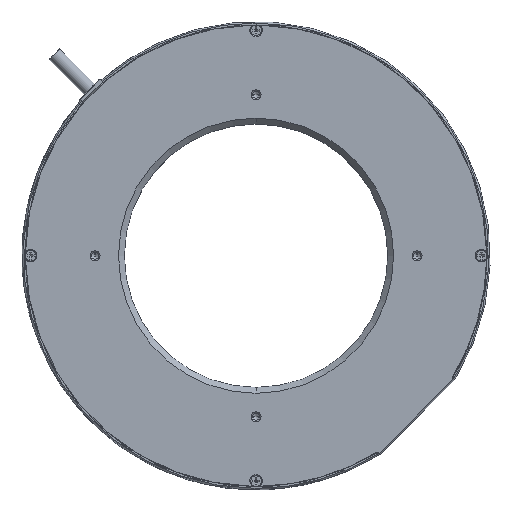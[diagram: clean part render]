
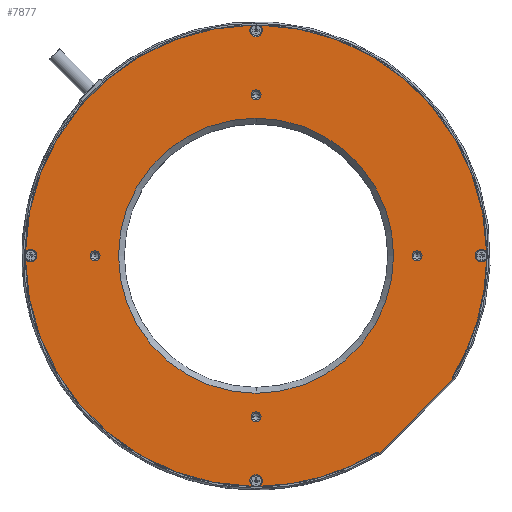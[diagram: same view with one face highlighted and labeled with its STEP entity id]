
A CAD part, top view. The second image highlights one B-rep face of the part: STEP entity #7877.
In plain terms, the highlighted planar face has unit normal (0, 0, 1).
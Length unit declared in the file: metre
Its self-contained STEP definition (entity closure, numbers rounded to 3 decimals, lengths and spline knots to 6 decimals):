
#1335=CARTESIAN_POINT('',(0.,0.,0.002));
#1336=DIRECTION('',(0.,0.,-1.));
#1337=DIRECTION('',(0.,1.,0.));
#1338=AXIS2_PLACEMENT_3D('',#1335,#1336,#1337);
#1340=CARTESIAN_POINT('',(0.,0.,0.002));
#1341=DIRECTION('',(0.,0.,-1.));
#1342=DIRECTION('',(0.,-1.,0.));
#1343=AXIS2_PLACEMENT_3D('',#1340,#1341,#1342);
#1345=CARTESIAN_POINT('',(-0.055,0.,0.002));
#1346=DIRECTION('',(0.,0.,-1.));
#1347=DIRECTION('',(0.,-1.,0.));
#1348=AXIS2_PLACEMENT_3D('',#1345,#1346,#1347);
#1350=CARTESIAN_POINT('',(-0.055,0.,0.002));
#1351=DIRECTION('',(0.,0.,-1.));
#1352=DIRECTION('',(0.,1.,0.));
#1353=AXIS2_PLACEMENT_3D('',#1350,#1351,#1352);
#1355=CARTESIAN_POINT('',(0.,-0.055,0.002));
#1356=DIRECTION('',(0.,0.,-1.));
#1357=DIRECTION('',(1.,0.,0.));
#1358=AXIS2_PLACEMENT_3D('',#1355,#1356,#1357);
#1360=CARTESIAN_POINT('',(0.,-0.055,0.002));
#1361=DIRECTION('',(0.,0.,-1.));
#1362=DIRECTION('',(-1.,0.,0.));
#1363=AXIS2_PLACEMENT_3D('',#1360,#1361,#1362);
#1365=CARTESIAN_POINT('',(0.055,0.,0.002));
#1366=DIRECTION('',(0.,0.,-1.));
#1367=DIRECTION('',(0.,1.,0.));
#1368=AXIS2_PLACEMENT_3D('',#1365,#1366,#1367);
#1370=CARTESIAN_POINT('',(0.055,0.,0.002));
#1371=DIRECTION('',(0.,0.,-1.));
#1372=DIRECTION('',(0.,-1.,0.));
#1373=AXIS2_PLACEMENT_3D('',#1370,#1371,#1372);
#1375=CARTESIAN_POINT('',(0.,0.055,0.002));
#1376=DIRECTION('',(0.,0.,-1.));
#1377=DIRECTION('',(-1.,0.,0.));
#1378=AXIS2_PLACEMENT_3D('',#1375,#1376,#1377);
#1380=CARTESIAN_POINT('',(0.,0.055,0.002));
#1381=DIRECTION('',(0.,0.,-1.));
#1382=DIRECTION('',(1.,0.,0.));
#1383=AXIS2_PLACEMENT_3D('',#1380,#1381,#1382);
#1385=CARTESIAN_POINT('',(0.,0.,0.002));
#1386=DIRECTION('',(0.,0.,1.));
#1387=DIRECTION('',(0.853,-0.523,0.));
#1388=AXIS2_PLACEMENT_3D('',#1385,#1386,#1387);
#1390=CARTESIAN_POINT('',(0.067608,-0.041445,0.002));
#1391=DIRECTION('',(0.,0.,-1.));
#1392=DIRECTION('',(-0.707,-0.707,0.));
#1393=AXIS2_PLACEMENT_3D('',#1390,#1391,#1392);
#1395=DIRECTION('',(-0.707,0.707,0.));
#1396=VECTOR('',#1395,0.000337);
#1397=CARTESIAN_POINT('',(0.067492,-0.042037,0.002));
#1398=LINE('',#1397,#1396);
#1399=DIRECTION('',(0.707,0.707,0.));
#1400=VECTOR('',#1399,0.036);
#1401=CARTESIAN_POINT('',(0.042037,-0.067492,0.002));
#1402=LINE('',#1401,#1400);
#1403=DIRECTION('',(0.707,-0.707,0.));
#1404=VECTOR('',#1403,0.000337);
#1405=CARTESIAN_POINT('',(0.041798,-0.067254,0.002));
#1406=LINE('',#1405,#1404);
#1407=CARTESIAN_POINT('',(0.041445,-0.067608,0.002));
#1408=DIRECTION('',(0.,0.,-1.));
#1409=DIRECTION('',(-0.523,0.853,0.));
#1410=AXIS2_PLACEMENT_3D('',#1407,#1408,#1409);
#1412=CARTESIAN_POINT('',(0.,0.,0.002));
#1413=DIRECTION('',(0.,0.,1.));
#1414=DIRECTION('',(0.015,-1.,0.));
#1415=AXIS2_PLACEMENT_3D('',#1412,#1413,#1414);
#1417=CARTESIAN_POINT('',(0.,0.,0.002));
#1418=DIRECTION('',(0.,0.,1.));
#1419=DIRECTION('',(-1.,-0.015,0.));
#1420=AXIS2_PLACEMENT_3D('',#1417,#1418,#1419);
#1422=CARTESIAN_POINT('',(0.,0.,0.002));
#1423=DIRECTION('',(0.,0.,1.));
#1424=DIRECTION('',(-0.015,1.,0.));
#1425=AXIS2_PLACEMENT_3D('',#1422,#1423,#1424);
#1427=CARTESIAN_POINT('',(0.,0.,0.002));
#1428=DIRECTION('',(0.,0.,1.));
#1429=DIRECTION('',(1.,0.015,0.));
#1430=AXIS2_PLACEMENT_3D('',#1427,#1428,#1429);
#1626=CARTESIAN_POINT('',(0.077,0.,0.002));
#1627=DIRECTION('',(0.,0.,-1.));
#1628=DIRECTION('',(0.833,-0.553,0.));
#1629=AXIS2_PLACEMENT_3D('',#1626,#1627,#1628);
#3353=CARTESIAN_POINT('',(0.,0.077,0.002));
#3354=DIRECTION('',(0.,0.,-1.));
#3355=DIRECTION('',(0.553,0.833,0.));
#3356=AXIS2_PLACEMENT_3D('',#3353,#3354,#3355);
#3680=CARTESIAN_POINT('',(-0.077,0.,0.002));
#3681=DIRECTION('',(0.,0.,-1.));
#3682=DIRECTION('',(-0.833,0.553,0.));
#3683=AXIS2_PLACEMENT_3D('',#3680,#3681,#3682);
#4014=CARTESIAN_POINT('',(0.,-0.077,0.002));
#4015=DIRECTION('',(0.,0.,-1.));
#4016=DIRECTION('',(-0.553,-0.833,0.));
#4017=AXIS2_PLACEMENT_3D('',#4014,#4015,#4016);
#4669=CARTESIAN_POINT('',(0.067182,-0.041184,0.002));
#4670=CARTESIAN_POINT('',(0.078791,-0.001189,0.002));
#4671=VERTEX_POINT('',#4669);
#4672=VERTEX_POINT('',#4670);
#4673=CARTESIAN_POINT('',(0.067254,-0.041798,0.002));
#4674=VERTEX_POINT('',#4673);
#4675=CARTESIAN_POINT('',(0.067492,-0.042037,0.002));
#4676=VERTEX_POINT('',#4675);
#4677=CARTESIAN_POINT('',(0.042037,-0.067492,0.002));
#4678=VERTEX_POINT('',#4677);
#4679=CARTESIAN_POINT('',(0.041798,-0.067254,0.002));
#4680=VERTEX_POINT('',#4679);
#4681=CARTESIAN_POINT('',(0.041184,-0.067182,0.002));
#4682=VERTEX_POINT('',#4681);
#4683=CARTESIAN_POINT('',(0.001189,-0.078791,0.002));
#4684=VERTEX_POINT('',#4683);
#4685=CARTESIAN_POINT('',(-0.078791,-0.001189,0.002));
#4686=CARTESIAN_POINT('',(-0.001189,-0.078791,0.002));
#4687=VERTEX_POINT('',#4685);
#4688=VERTEX_POINT('',#4686);
#4689=CARTESIAN_POINT('',(-0.001189,0.078791,0.002));
#4690=CARTESIAN_POINT('',(-0.078791,0.001189,0.002));
#4691=VERTEX_POINT('',#4689);
#4692=VERTEX_POINT('',#4690);
#4693=CARTESIAN_POINT('',(0.078791,0.001189,0.002));
#4694=CARTESIAN_POINT('',(0.001189,0.078791,0.002));
#4695=VERTEX_POINT('',#4693);
#4696=VERTEX_POINT('',#4694);
#4697=CARTESIAN_POINT('',(0.0017,0.055,0.002));
#4698=CARTESIAN_POINT('',(-0.0017,0.055,0.002));
#4699=VERTEX_POINT('',#4697);
#4700=VERTEX_POINT('',#4698);
#4701=CARTESIAN_POINT('',(0.055,-0.0017,0.002));
#4702=CARTESIAN_POINT('',(0.055,0.0017,0.002));
#4703=VERTEX_POINT('',#4701);
#4704=VERTEX_POINT('',#4702);
#4705=CARTESIAN_POINT('',(-0.0017,-0.055,0.002));
#4706=CARTESIAN_POINT('',(0.0017,-0.055,0.002));
#4707=VERTEX_POINT('',#4705);
#4708=VERTEX_POINT('',#4706);
#4709=CARTESIAN_POINT('',(-0.055,0.0017,0.002));
#4710=CARTESIAN_POINT('',(-0.055,-0.0017,0.002));
#4711=VERTEX_POINT('',#4709);
#4712=VERTEX_POINT('',#4710);
#4713=CARTESIAN_POINT('',(0.,-0.047,0.002));
#4714=CARTESIAN_POINT('',(0.,0.047,0.002));
#4715=VERTEX_POINT('',#4713);
#4716=VERTEX_POINT('',#4714);
#7814=CARTESIAN_POINT('',(0.,0.,0.002));
#7815=DIRECTION('',(0.,0.,-1.));
#7816=DIRECTION('',(0.,-1.,0.));
#7817=AXIS2_PLACEMENT_3D('',#7814,#7815,#7816);
#7818=PLANE('',#7817);
#7820=ORIENTED_EDGE('',*,*,#7819,.F.);
#7822=ORIENTED_EDGE('',*,*,#7821,.F.);
#7824=ORIENTED_EDGE('',*,*,#7823,.F.);
#7826=ORIENTED_EDGE('',*,*,#7825,.F.);
#7828=ORIENTED_EDGE('',*,*,#7827,.F.);
#7830=ORIENTED_EDGE('',*,*,#7829,.F.);
#7832=ORIENTED_EDGE('',*,*,#7831,.F.);
#7834=ORIENTED_EDGE('',*,*,#7833,.F.);
#7836=ORIENTED_EDGE('',*,*,#7835,.F.);
#7838=ORIENTED_EDGE('',*,*,#7837,.F.);
#7840=ORIENTED_EDGE('',*,*,#7839,.F.);
#7842=ORIENTED_EDGE('',*,*,#7841,.F.);
#7844=ORIENTED_EDGE('',*,*,#7843,.F.);
#7846=ORIENTED_EDGE('',*,*,#7845,.F.);
#7847=EDGE_LOOP('',(#7820,#7822,#7824,#7826,#7828,#7830,#7832,#7834,#7836,#7838,
#7840,#7842,#7844,#7846));
#7848=FACE_OUTER_BOUND('',#7847,.F.);
#7850=ORIENTED_EDGE('',*,*,#7849,.F.);
#7852=ORIENTED_EDGE('',*,*,#7851,.F.);
#7853=EDGE_LOOP('',(#7850,#7852));
#7854=FACE_BOUND('',#7853,.F.);
#7856=ORIENTED_EDGE('',*,*,#7855,.F.);
#7858=ORIENTED_EDGE('',*,*,#7857,.F.);
#7859=EDGE_LOOP('',(#7856,#7858));
#7860=FACE_BOUND('',#7859,.F.);
#7862=ORIENTED_EDGE('',*,*,#7861,.F.);
#7864=ORIENTED_EDGE('',*,*,#7863,.F.);
#7865=EDGE_LOOP('',(#7862,#7864));
#7866=FACE_BOUND('',#7865,.F.);
#7868=ORIENTED_EDGE('',*,*,#7867,.F.);
#7870=ORIENTED_EDGE('',*,*,#7869,.F.);
#7871=EDGE_LOOP('',(#7868,#7870));
#7872=FACE_BOUND('',#7871,.F.);
#7873=ORIENTED_EDGE('',*,*,#7793,.F.);
#7874=ORIENTED_EDGE('',*,*,#7807,.F.);
#7875=EDGE_LOOP('',(#7873,#7874));
#7876=FACE_BOUND('',#7875,.F.);
#7877=ADVANCED_FACE('',(#7848,#7854,#7860,#7866,#7872,#7876),#7818,.F.);
#1339=CIRCLE('',#1338,0.047);
#1344=CIRCLE('',#1343,0.047);
#1349=CIRCLE('',#1348,0.0017);
#1354=CIRCLE('',#1353,0.0017);
#1359=CIRCLE('',#1358,0.0017);
#1364=CIRCLE('',#1363,0.0017);
#1369=CIRCLE('',#1368,0.0017);
#1374=CIRCLE('',#1373,0.0017);
#1379=CIRCLE('',#1378,0.0017);
#1384=CIRCLE('',#1383,0.0017);
#1389=CIRCLE('',#1388,0.0788);
#1394=CIRCLE('',#1393,0.0005);
#1411=CIRCLE('',#1410,0.0005);
#1416=CIRCLE('',#1415,0.0788);
#1421=CIRCLE('',#1420,0.0788);
#1426=CIRCLE('',#1425,0.0788);
#1431=CIRCLE('',#1430,0.0788);
#1630=CIRCLE('',#1629,0.00215);
#3357=CIRCLE('',#3356,0.00215);
#3684=CIRCLE('',#3683,0.00215);
#4018=CIRCLE('',#4017,0.00215);
#7793=EDGE_CURVE('',#4716,#4715,#1339,.T.);
#7807=EDGE_CURVE('',#4715,#4716,#1344,.T.);
#7819=EDGE_CURVE('',#4672,#4695,#1630,.T.);
#7821=EDGE_CURVE('',#4671,#4672,#1389,.T.);
#7823=EDGE_CURVE('',#4674,#4671,#1394,.T.);
#7825=EDGE_CURVE('',#4676,#4674,#1398,.T.);
#7827=EDGE_CURVE('',#4678,#4676,#1402,.T.);
#7829=EDGE_CURVE('',#4680,#4678,#1406,.T.);
#7831=EDGE_CURVE('',#4682,#4680,#1411,.T.);
#7833=EDGE_CURVE('',#4684,#4682,#1416,.T.);
#7835=EDGE_CURVE('',#4688,#4684,#4018,.T.);
#7837=EDGE_CURVE('',#4687,#4688,#1421,.T.);
#7839=EDGE_CURVE('',#4692,#4687,#3684,.T.);
#7841=EDGE_CURVE('',#4691,#4692,#1426,.T.);
#7843=EDGE_CURVE('',#4696,#4691,#3357,.T.);
#7845=EDGE_CURVE('',#4695,#4696,#1431,.T.);
#7849=EDGE_CURVE('',#4712,#4711,#1349,.T.);
#7851=EDGE_CURVE('',#4711,#4712,#1354,.T.);
#7855=EDGE_CURVE('',#4708,#4707,#1359,.T.);
#7857=EDGE_CURVE('',#4707,#4708,#1364,.T.);
#7861=EDGE_CURVE('',#4704,#4703,#1369,.T.);
#7863=EDGE_CURVE('',#4703,#4704,#1374,.T.);
#7867=EDGE_CURVE('',#4700,#4699,#1379,.T.);
#7869=EDGE_CURVE('',#4699,#4700,#1384,.T.);
